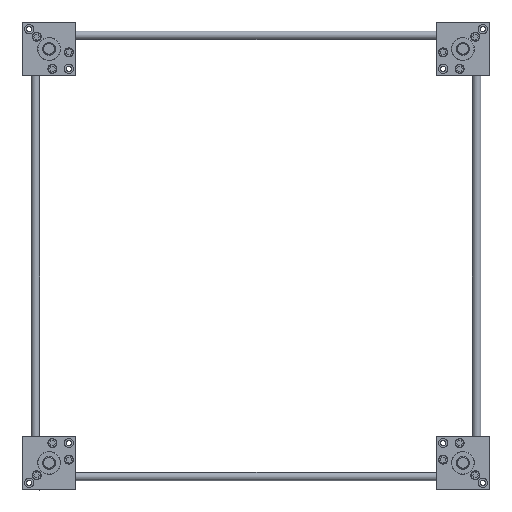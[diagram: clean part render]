
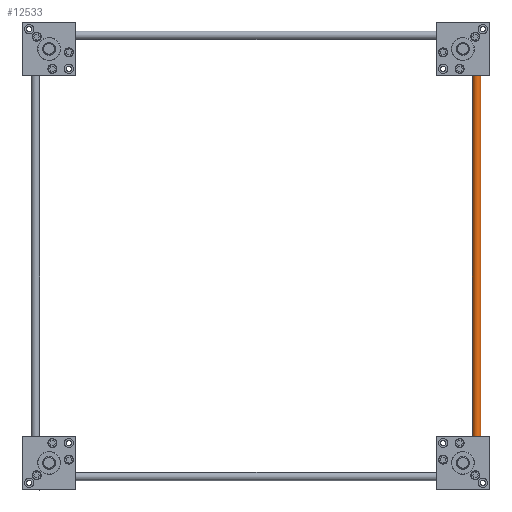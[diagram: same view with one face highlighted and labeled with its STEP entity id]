
A CAD part, top view. The second image highlights one B-rep face of the part: STEP entity #12533.
In plain terms, the highlighted cylindrical face has radius 5 mm (diameter 10 mm), a full revolution.
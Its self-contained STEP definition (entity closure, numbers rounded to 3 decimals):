
#12533=ADVANCED_FACE('',(#29673,#29674),#29675,.T.);
#29673=FACE_OUTER_BOUND('',#46824,.T.);
#29674=FACE_OUTER_BOUND('',#46825,.T.);
#29675=CYLINDRICAL_SURFACE('',#46826,5.0);
#46824=EDGE_LOOP('',(#115846));
#46825=EDGE_LOOP('',(#115847));
#46826=AXIS2_PLACEMENT_3D('',#115848,#115849,#115850);
#115846=ORIENTED_EDGE('',*,*,#138225,.T.);
#115847=ORIENTED_EDGE('',*,*,#138222,.T.);
#115848=CARTESIAN_POINT('',(0.0,0.0,511.0));
#115849=DIRECTION('',(0.0,0.0,-1.0));
#115850=DIRECTION('',(-1.0,0.0,0.0));
#138222=EDGE_CURVE('',#175606,#175606,#175607,.F.);
#138225=EDGE_CURVE('',#175612,#175612,#175613,.T.);
#175606=VERTEX_POINT('',#235138);
#175607=CIRCLE('',#235139,5.0);
#175612=VERTEX_POINT('',#235144);
#175613=CIRCLE('',#235145,5.0);
#235138=CARTESIAN_POINT('',(5.0,0.0,510.5));
#235139=AXIS2_PLACEMENT_3D('',#260398,#260399,#260400);
#235144=CARTESIAN_POINT('',(5.0,0.0,0.5));
#235145=AXIS2_PLACEMENT_3D('',#260407,#260408,#260409);
#260398=CARTESIAN_POINT('',(0.0,0.0,510.5));
#260399=DIRECTION('',(0.0,0.0,1.0));
#260400=DIRECTION('',(1.0,0.0,0.0));
#260407=CARTESIAN_POINT('',(0.0,0.0,0.5));
#260408=DIRECTION('',(0.0,0.0,1.0));
#260409=DIRECTION('',(1.0,0.0,0.0));
